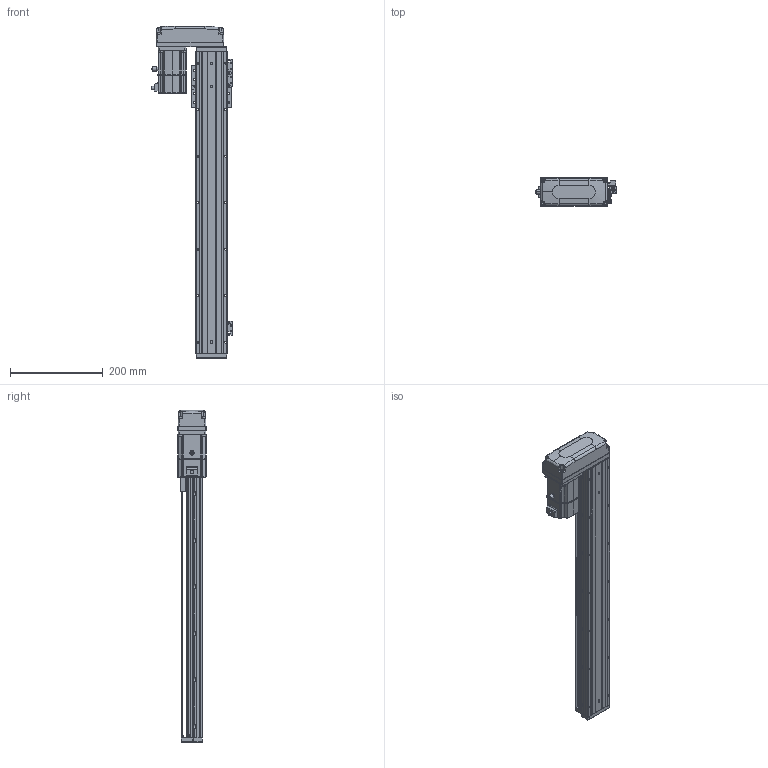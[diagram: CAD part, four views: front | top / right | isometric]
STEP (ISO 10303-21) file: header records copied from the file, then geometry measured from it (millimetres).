
FILE_DESCRIPTION (( 'STEP AP203' ), '1' );
FILE_NAME ('KTHAL60-500-BR-M20-C4L.step', '2022-12-16T02:15:45', ( '微软用户' ), ( '微软中国' ), 'SwSTEP 2.0', 'SolidWorks 2020', '' );
FILE_SCHEMA (( 'CONFIG_CONTROL_DESIGN' ));
Length unit declared in the file: millimetre
Products named in the file (17): GB¨uT 70.2-M3¡Á5_M3¡Á6; GBT 70.1-M3℅6; GBT 70.3-M3℅6; CTHA60-016; EE_SX911P_R; _X2_4E0983F1_X0_200W_1; KTHA60-001_650; CTHA60-017; CTHA60-015-4_CTHA60-015-4; KTHLA60-002; CTHA60-021; GTH80-026; KTHA60-004; GBT 70.1-M4×16; KTHAL60-500-BR-M20-C4L; KTHA60-005; GBT77-2000M3-3
Assembly tree (45 placements, depth 2):
  KTHAL60-500-BR-M20-C4L
    KTHA60-001_650
    KTHLA60-002
    KTHA60-004
    KTHA60-005
    GB¨uT 70.2-M3¡Á5_M3¡Á6  x5
    GBT 70.3-M3℅6  x4
    EE_SX911P_R  x3
    CTHA60-017  x3
    CTHA60-021  x2
    GBT 70.1-M4×16  x8
    GBT77-2000M3-3  x6
    GBT 70.1-M3℅6  x6
    CTHA60-016
    _X2_4E0983F1_X0_200W_1
    CTHA60-015-4_CTHA60-015-4
    GTH80-026
Bounding box: 173.02 x 62.42 x 714 mm (x, y, z)
Volume: 1923555.9 mm3; surface area: 411386.7 mm2
Topology: 48 solids, 48 shells, 2351 faces, 5604 edges, 3445 vertices
Faces by surface type: plane 1259, cylinder 623, cone 270, bspline 103, torus 82, sphere 14
Entity records: 45893 total; most frequent: CARTESIAN_POINT 10266, DIRECTION 6921, ORIENTED_EDGE 6832, EDGE_CURVE 3416, AXIS2_PLACEMENT_3D 2384, VECTOR 2153, LINE 2153, VERTEX_POINT 2129
